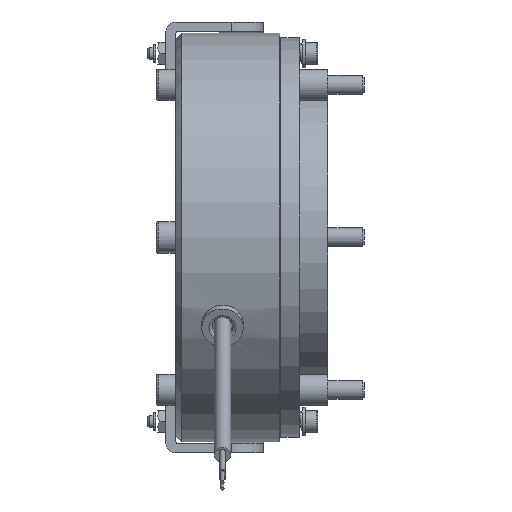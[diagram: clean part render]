
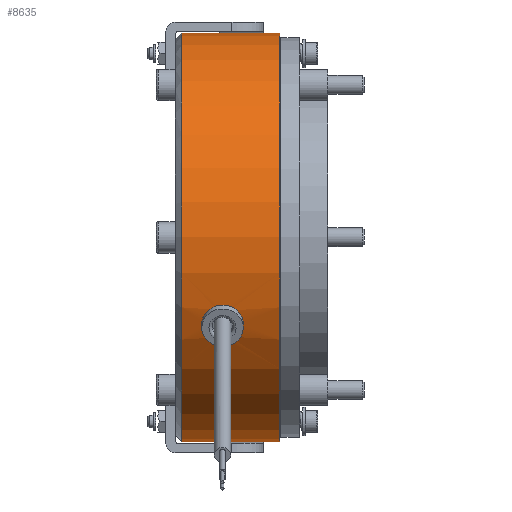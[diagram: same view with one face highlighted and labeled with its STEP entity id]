
A CAD part, front view. The second image highlights one B-rep face of the part: STEP entity #8635.
In plain terms, the highlighted cylindrical face has radius 65 mm (diameter 130 mm), a full revolution.
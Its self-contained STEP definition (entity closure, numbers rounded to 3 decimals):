
#174=B_SPLINE_CURVE_WITH_KNOTS('',3,(#13533,#13534,#13535,#13536,#13537,
#13538,#13539,#13540,#13541,#13542,#13543,#13544,#13545,#13546,#13547,#13548,
#13549,#13550,#13551),.UNSPECIFIED.,.F.,.F.,(4,2,2,2,3,2,2,2,4),(2.301,
2.493,2.685,2.877,3.068,3.26,
3.451,3.643,3.836),.UNSPECIFIED.);
#175=B_SPLINE_CURVE_WITH_KNOTS('',3,(#13554,#13555,#13556,#13557,#13558,
#13559,#13560,#13561,#13562,#13563,#13564,#13565,#13566,#13567,#13568,#13569,
#13570,#13571),.UNSPECIFIED.,.F.,.F.,(4,2,2,2,2,2,2,2,4),(0.767,
0.959,1.151,1.343,1.534,1.726,
1.918,2.109,2.301),.UNSPECIFIED.);
#415=CYLINDRICAL_SURFACE('',#9355,65.);
#598=FACE_BOUND('',#1872,.T.);
#867=CIRCLE('',#9330,65.);
#868=CIRCLE('',#9331,65.);
#875=CIRCLE('',#9342,65.);
#876=CIRCLE('',#9343,65.);
#1381=FACE_OUTER_BOUND('',#1871,.T.);
#1871=EDGE_LOOP('',(#6504,#6505,#6506,#6507,#6508,#6509));
#1872=EDGE_LOOP('',(#6510,#6511,#6512,#6513,#6514,#6515));
#2457=LINE('',#14889,#2923);
#2458=LINE('',#14890,#2924);
#2459=LINE('',#14891,#2925);
#2923=VECTOR('',#11011,65.);
#2924=VECTOR('',#11012,10.);
#2925=VECTOR('',#11013,10.);
#3460=VERTEX_POINT('',#13531);
#3461=VERTEX_POINT('',#13532);
#3462=VERTEX_POINT('',#13574);
#3464=VERTEX_POINT('',#13578);
#3581=VERTEX_POINT('',#14838);
#3582=VERTEX_POINT('',#14839);
#3589=VERTEX_POINT('',#14861);
#3590=VERTEX_POINT('',#14862);
#4451=EDGE_CURVE('',#3460,#3461,#174,.T.);
#4453=EDGE_CURVE('',#3461,#3460,#175,.T.);
#4633=EDGE_CURVE('',#3581,#3582,#867,.T.);
#4634=EDGE_CURVE('',#3582,#3581,#868,.T.);
#4644=EDGE_CURVE('',#3589,#3590,#875,.T.);
#4645=EDGE_CURVE('',#3590,#3589,#876,.T.);
#4658=EDGE_CURVE('',#3582,#3590,#2457,.T.);
#4659=EDGE_CURVE('',#3464,#3461,#2458,.T.);
#4660=EDGE_CURVE('',#3462,#3460,#2459,.T.);
#6504=ORIENTED_EDGE('',*,*,#4633,.F.);
#6505=ORIENTED_EDGE('',*,*,#4634,.F.);
#6506=ORIENTED_EDGE('',*,*,#4658,.T.);
#6507=ORIENTED_EDGE('',*,*,#4644,.F.);
#6508=ORIENTED_EDGE('',*,*,#4645,.F.);
#6509=ORIENTED_EDGE('',*,*,#4658,.F.);
#6510=ORIENTED_EDGE('',*,*,#4659,.F.);
#6511=ORIENTED_EDGE('',*,*,#4659,.T.);
#6512=ORIENTED_EDGE('',*,*,#4453,.T.);
#6513=ORIENTED_EDGE('',*,*,#4660,.F.);
#6514=ORIENTED_EDGE('',*,*,#4660,.T.);
#6515=ORIENTED_EDGE('',*,*,#4451,.T.);
#8635=ADVANCED_FACE('',(#1381,#598),#415,.T.);
#9330=AXIS2_PLACEMENT_3D('',#14840,#10953,#10954);
#9331=AXIS2_PLACEMENT_3D('',#14841,#10955,#10956);
#9342=AXIS2_PLACEMENT_3D('',#14863,#10980,#10981);
#9343=AXIS2_PLACEMENT_3D('',#14864,#10982,#10983);
#9355=AXIS2_PLACEMENT_3D('',#14888,#11009,#11010);
#10953=DIRECTION('center_axis',(1.,0.,0.));
#10954=DIRECTION('ref_axis',(0.,1.,0.));
#10955=DIRECTION('center_axis',(1.,0.,0.));
#10956=DIRECTION('ref_axis',(0.,1.,0.));
#10980=DIRECTION('center_axis',(-1.,0.,0.));
#10981=DIRECTION('ref_axis',(0.,-1.,0.));
#10982=DIRECTION('center_axis',(-1.,0.,0.));
#10983=DIRECTION('ref_axis',(0.,-1.,0.));
#11009=DIRECTION('center_axis',(1.,0.,0.));
#11010=DIRECTION('ref_axis',(0.,1.,0.));
#11011=DIRECTION('',(-1.,0.,0.));
#11012=DIRECTION('',(-1.,0.,0.));
#11013=DIRECTION('',(1.,0.,0.));
#13531=CARTESIAN_POINT('',(-23.3,-58.91,-27.47));
#13532=CARTESIAN_POINT('',(-13.1,-58.91,-27.47));
#13533=CARTESIAN_POINT('Ctrl Pts',(-23.3,-58.91,
-27.47));
#13534=CARTESIAN_POINT('Ctrl Pts',(-23.3,-59.18,
-26.891));
#13535=CARTESIAN_POINT('Ctrl Pts',(-23.171,-59.459,-26.268));
#13536=CARTESIAN_POINT('Ctrl Pts',(-22.649,-59.954,
-25.117));
#13537=CARTESIAN_POINT('Ctrl Pts',(-22.255,-60.172,
-24.588));
#13538=CARTESIAN_POINT('Ctrl Pts',(-21.348,-60.507,
-23.751));
#13539=CARTESIAN_POINT('Ctrl Pts',(-20.775,-60.647,
-23.387));
#13540=CARTESIAN_POINT('Ctrl Pts',(-19.521,-60.832,-22.903));
#13541=CARTESIAN_POINT('Ctrl Pts',(-18.839,-60.876,
-22.784));
#13542=CARTESIAN_POINT('Ctrl Pts',(-18.2,-60.876,-22.784));
#13543=CARTESIAN_POINT('Ctrl Pts',(-17.562,-60.876,
-22.784));
#13544=CARTESIAN_POINT('Ctrl Pts',(-16.881,-60.832,
-22.903));
#13545=CARTESIAN_POINT('Ctrl Pts',(-15.627,-60.648,
-23.386));
#13546=CARTESIAN_POINT('Ctrl Pts',(-15.054,-60.508,
-23.749));
#13547=CARTESIAN_POINT('Ctrl Pts',(-14.147,-60.173,
-24.586));
#13548=CARTESIAN_POINT('Ctrl Pts',(-13.753,-59.955,
-25.115));
#13549=CARTESIAN_POINT('Ctrl Pts',(-13.229,-59.46,-26.267));
#13550=CARTESIAN_POINT('Ctrl Pts',(-13.1,-59.181,
-26.89));
#13551=CARTESIAN_POINT('Ctrl Pts',(-13.1,-58.91,
-27.47));
#13554=CARTESIAN_POINT('Ctrl Pts',(-13.1,-58.91,
-27.47));
#13555=CARTESIAN_POINT('Ctrl Pts',(-13.1,-58.64,
-28.05));
#13556=CARTESIAN_POINT('Ctrl Pts',(-13.229,-58.342,
-28.663));
#13557=CARTESIAN_POINT('Ctrl Pts',(-13.751,-57.779,
-29.783));
#13558=CARTESIAN_POINT('Ctrl Pts',(-14.145,-57.513,
-30.289));
#13559=CARTESIAN_POINT('Ctrl Pts',(-15.052,-57.088,
-31.084));
#13560=CARTESIAN_POINT('Ctrl Pts',(-15.625,-56.899,
-31.426));
#13561=CARTESIAN_POINT('Ctrl Pts',(-16.879,-56.647,
-31.878));
#13562=CARTESIAN_POINT('Ctrl Pts',(-17.561,-56.584,-31.988));
#13563=CARTESIAN_POINT('Ctrl Pts',(-18.839,-56.584,-31.988));
#13564=CARTESIAN_POINT('Ctrl Pts',(-19.521,-56.647,
-31.878));
#13565=CARTESIAN_POINT('Ctrl Pts',(-20.775,-56.899,
-31.426));
#13566=CARTESIAN_POINT('Ctrl Pts',(-21.348,-57.088,
-31.084));
#13567=CARTESIAN_POINT('Ctrl Pts',(-22.255,-57.513,
-30.289));
#13568=CARTESIAN_POINT('Ctrl Pts',(-22.649,-57.779,
-29.783));
#13569=CARTESIAN_POINT('Ctrl Pts',(-23.171,-58.342,
-28.663));
#13570=CARTESIAN_POINT('Ctrl Pts',(-23.3,-58.64,
-28.05));
#13571=CARTESIAN_POINT('Ctrl Pts',(-23.3,-58.91,
-27.47));
#13574=CARTESIAN_POINT('',(-24.8,-58.91,-27.47));
#13578=CARTESIAN_POINT('',(-11.6,-58.91,-27.47));
#14838=CARTESIAN_POINT('',(0.,0.,65.));
#14839=CARTESIAN_POINT('',(0.,-65.,0.));
#14840=CARTESIAN_POINT('Origin',(0.,0.,0.));
#14841=CARTESIAN_POINT('Origin',(0.,0.,0.));
#14861=CARTESIAN_POINT('',(-31.2,65.,0.));
#14862=CARTESIAN_POINT('',(-31.2,-65.,0.));
#14863=CARTESIAN_POINT('Origin',(-31.2,0.,0.));
#14864=CARTESIAN_POINT('Origin',(-31.2,0.,0.));
#14888=CARTESIAN_POINT('Origin',(-16.6,0.,0.));
#14889=CARTESIAN_POINT('',(-16.6,-65.,0.));
#14890=CARTESIAN_POINT('',(0.,-58.91,-27.47));
#14891=CARTESIAN_POINT('',(-16.6,-58.91,-27.47));
